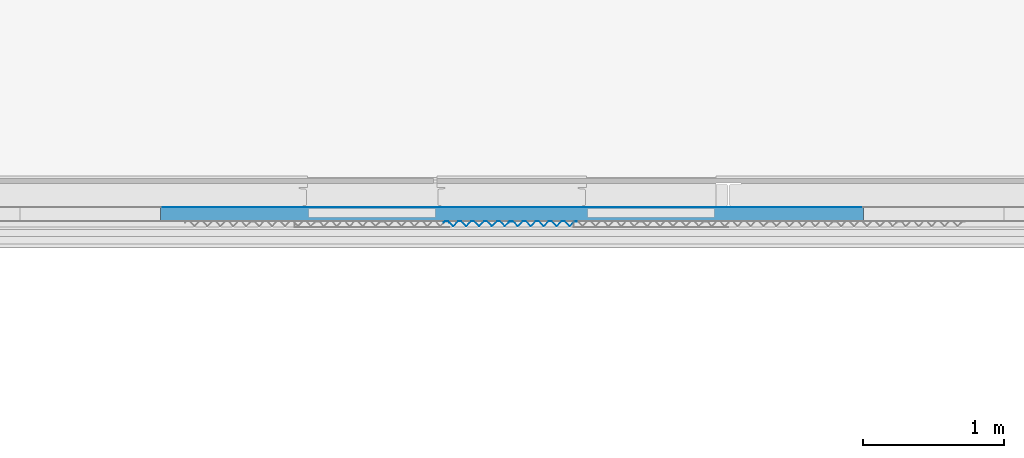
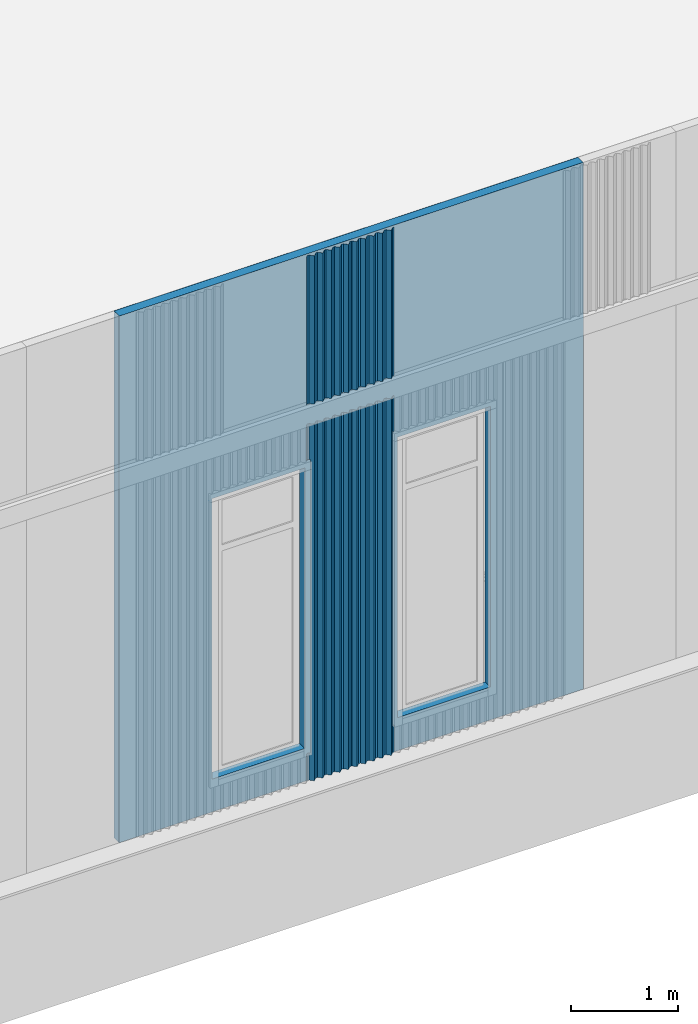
# One storey, part 91 of 338: 6 building element parts, 2 openings, 3 elements without a shape of their own.
"""IFC2X3 building model written with IfcOpenShell, lengths in millimetres."""

from ifc_helpers import new_model, entity, si_unit, converted_unit, derived_unit, money_unit, direction, frame, origin_with_axes, place, context, subcontext, project, spatial, faceted_brep, material, type_object, element, aggregate, save


model = new_model("IFC2X3")

# Units and contexts
model_context = context("Model", 3, precision=0.01, world=origin_with_axes(), true_north=direction((0.0, 1.0)))
plan_context = context("Plan", 3, precision=0.01, world=origin_with_axes(), true_north=direction((0.0, 1.0)))
body_context = subcontext(model_context, "Body", "Model", "MODEL_VIEW")
ifc_project = project(units=[si_unit("LENGTHUNIT", "METRE", prefix="MILLI"), si_unit("AREAUNIT", "SQUARE_METRE"), si_unit("VOLUMEUNIT", "CUBIC_METRE"), converted_unit("PLANEANGLEUNIT", "DEGREE", entity("IfcPlaneAngleMeasure", 0.0174532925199), si_unit("PLANEANGLEUNIT", "RADIAN"), dimensions=[0, 0, 0, 0, 0, 0, 0]), money_unit("EUR"), converted_unit("TIMEUNIT", "Year", entity("IfcTimeMeasure", 31556926.0), si_unit("TIMEUNIT", "SECOND"), dimensions=[0, 0, 1, 0, 0, 0, 0]), si_unit("MASSUNIT", "GRAM", prefix="KILO"), si_unit("THERMODYNAMICTEMPERATUREUNIT", "DEGREE_CELSIUS"), si_unit("LUMINOUSINTENSITYUNIT", "LUMEN"), si_unit("ENERGYUNIT", "JOULE", prefix="MEGA"), derived_unit("THERMALCONDUCTANCEUNIT", [(si_unit("POWERUNIT", "WATT"), 1), (si_unit("LENGTHUNIT", "METRE"), -1), (si_unit("THERMODYNAMICTEMPERATUREUNIT", "KELVIN"), -1)]), derived_unit("SPECIFICHEATCAPACITYUNIT", [(si_unit("ENERGYUNIT", "JOULE"), 1), (si_unit("MASSUNIT", "GRAM", prefix="KILO"), -1), (si_unit("THERMODYNAMICTEMPERATUREUNIT", "KELVIN"), -1)]), derived_unit("MASSDENSITYUNIT", [(si_unit("MASSUNIT", "GRAM", prefix="KILO"), 1), (si_unit("VOLUMEUNIT", "CUBIC_METRE"), -1)])], contexts=[model_context, plan_context])

# Site, building, storey
site_placement = place(None, origin_with_axes())
site = spatial("IfcSite", under=ifc_project, at=site_placement, Name="Fortuinstraat Woensdrecht", CompositionType="ELEMENT")
building_placement = place(site_placement, origin_with_axes())
building = spatial("IfcBuilding", under=site, at=building_placement, Name="IKC Fortuna", CompositionType="ELEMENT")
storey_placement = place(building_placement, origin_with_axes())
storey = spatial("IfcBuildingStorey", under=building, at=storey_placement, Name="00 begane grond", CompositionType="ELEMENT", Elevation=0.0)

# Wall, openings, building element parts
wall_type = type_object("IfcWallType", Name="21 sandwich 100", PredefinedType="NOTDEFINED")
wall_placement = place(storey_placement, frame((48093.4131798, 20996.2966283, 1000.0), z_axis=(0.0, 0.0, 1.0), x_axis=(-1.0, 0.0, 0.0)))
wall = element("IfcWall", 1, at=wall_placement, inside=storey, type_object=wall_type, Name="21_Wand_sandwichplaat")
opening_1_placement = place(wall_placement, frame((1509.97190187, 0.0, 400.0), z_axis=(0.0, 0.0, 1.0), x_axis=(1.0, 0.0, 0.0)))
element("IfcOpeningElement", 2, at=opening_1_placement, cuts=wall, Name="31_Raam_A.09", context=body_context, shape_type="Brep", body=[
    faceted_brep([(490.0, 10.0, 3170.0), (490.0, 10.0, -25.0), (490.0, 200.0, -25.0), (490.0, 200.0, 3170.0), (-510.0, 10.0, 3170.0), (-510.0, 10.0, -25.0), (-510.0, 200.0, -25.0), (-510.0, 200.0, 3170.0)], [[[0, 1, 2, 3]], [[0, 4, 5, 1]], [[1, 5, 6, 2]], [[3, 2, 6, 7]], [[4, 0, 3, 7]], [[5, 4, 7, 6]]]),
    faceted_brep([(490.0, 10.0, -25.0), (490.0, 10.0, 3170.0), (490.0, -100.0, 3170.0), (490.0, -100.0, -25.0), (-510.0, 10.0, -25.0), (-510.0, 10.0, 3170.0), (-510.0, -100.0, 3170.0), (-510.0, -100.0, -25.0)], [[[0, 1, 2, 3]], [[0, 4, 5, 1]], [[1, 5, 6, 2]], [[3, 2, 6, 7]], [[4, 0, 3, 7]], [[5, 4, 7, 6]]]),
])
opening_2_placement = place(wall_placement, frame((3494.965945, 0.0, 400.0), z_axis=(0.0, 0.0, 1.0), x_axis=(1.0, 0.0, 0.0)))
element("IfcOpeningElement", 3, at=opening_2_placement, cuts=wall, Name="31_Raam_A.09", context=body_context, shape_type="Brep", body=[
    faceted_brep([(505.0, 10.0, 3170.0), (505.0, 10.0, -25.0), (505.0, 200.0, -25.0), (505.0, 200.0, 3170.0), (-495.0, 10.0, 3170.0), (-495.0, 10.0, -25.0), (-495.0, 200.0, -25.0), (-495.0, 200.0, 3170.0)], [[[0, 1, 2, 3]], [[0, 4, 5, 1]], [[1, 5, 6, 2]], [[3, 2, 6, 7]], [[4, 0, 3, 7]], [[5, 4, 7, 6]]]),
    faceted_brep([(505.0, 10.0, -25.0), (505.0, 10.0, 3170.0), (505.0, -100.0, 3170.0), (505.0, -100.0, -25.0), (-495.0, 10.0, -25.0), (-495.0, 10.0, 3170.0), (-495.0, -100.0, 3170.0), (-495.0, -100.0, -25.0)], [[[0, 1, 2, 3]], [[0, 4, 5, 1]], [[1, 5, 6, 2]], [[3, 2, 6, 7]], [[4, 0, 3, 7]], [[5, 4, 7, 6]]]),
])
ifc_material_1 = material(Name="Isolatie - Kunststof hard")
building_element_part_1_placement = place(wall_placement, origin_with_axes())
building_element_part_1 = element("IfcBuildingElementPart", 4, at=building_element_part_1_placement, material=ifc_material_1, Name="Isolatie - Kunststof hard", context=body_context, shape_type="Brep", body=[
    faceted_brep([(0.0, 99.0, 6000.0), (5000.0, 99.0, 6000.0), (5000.0, 99.0, 0.0), (0.0, 99.0, 0.0), (999.971901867, 99.0, 3570.0), (999.971901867, 99.0, 375.0), (1999.97190187, 99.0, 375.0), (1999.97190187, 99.0, 3570.0), (3999.965945, 99.0, 375.0), (3999.965945, 99.0, 3570.0), (2999.965945, 99.0, 3570.0), (2999.965945, 99.0, 375.0), (0.0, 1.0, 6000.0), (5000.0, 1.0, 6000.0), (5000.0, 1.0, 0.0), (0.0, 1.0, 0.0), (999.971901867, 1.0, 3570.0), (999.971901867, 1.0, 375.0), (1999.97190187, 1.0, 375.0), (1999.97190187, 1.0, 3570.0), (3999.965945, 1.0, 375.0), (3999.965945, 1.0, 3570.0), (2999.965945, 1.0, 3570.0), (2999.965945, 1.0, 375.0), (859.986122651, 1.0, 4987.38689376), (933.886122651, 1.0, 4987.38689376), (944.386122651, 1.0, 4990.20075849), (952.072656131, 1.0, 4997.8883799), (954.886122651, 1.0, 5008.38986604), (954.886122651, 1.0, 5380.04044726), (965.086122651, 1.0, 5380.04044726), (965.086122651, 1.0, 5008.38986604), (967.899589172, 1.0, 4997.8883799), (975.586122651, 1.0, 4990.20075849), (986.086122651, 1.0, 4987.38689376), (1059.98612265, 1.0, 4987.38689376), (1059.98612265, 1.0, 4971.38462917), (859.986122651, 1.0, 4971.38462917), (859.986122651, 7.60468625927, 4987.4980203), (933.886122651, 7.60468625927, 4987.4980203), (944.386122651, 7.55735523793, 4990.31108866), (952.072656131, 7.42804448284, 4997.99653437), (954.886122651, 7.25140270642, 5008.49504844), (859.986122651, 7.8738546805, 4971.50028457), (1059.98612265, 7.8738546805, 4971.50028457), (1059.98612265, 7.60468625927, 4987.4980203), (986.086122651, 7.60468625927, 4987.4980203), (975.586122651, 7.55735523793, 4990.31108866), (967.899589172, 7.42804448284, 4997.99653437), (965.086122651, 7.25140270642, 5008.49504844)], [[[0, 1, 2, 3], [4, 5, 6, 7], [8, 9, 10, 11]], [[12, 13, 1, 0]], [[1, 13, 14, 2]], [[3, 2, 14, 15]], [[15, 12, 0, 3]], [[4, 16, 17, 5]], [[17, 18, 6, 5]], [[18, 19, 7, 6]], [[7, 19, 16, 4]], [[9, 8, 20, 21]], [[22, 10, 9, 21]], [[23, 11, 10, 22]], [[8, 11, 23, 20]], [[15, 14, 13, 12], [24, 25, 26, 27, 28, 29, 30, 31, 32, 33, 34, 35, 36, 37], [19, 18, 17, 16], [23, 22, 21, 20]], [[25, 24, 38, 39]], [[26, 25, 39, 40]], [[27, 26, 40, 41]], [[28, 27, 41, 42]], [[29, 28, 42]], [[42, 41, 40, 39, 38, 43, 44, 45, 46, 47, 48, 49, 30, 29]], [[31, 30, 49]], [[32, 31, 49, 48]], [[33, 32, 48, 47]], [[34, 33, 47, 46]], [[35, 34, 46, 45]], [[36, 35, 45, 44]], [[37, 36, 44, 43]], [[24, 37, 43, 38]]]),
])
ifc_material_2 = material(Name="Metaal - Aluminium")
building_element_part_2_placement = place(wall_placement, origin_with_axes())
building_element_part_2 = element("IfcBuildingElementPart", 5, at=building_element_part_2_placement, material=ifc_material_2, Name="Metaal - Aluminium", context=body_context, shape_type="Brep", body=[
    faceted_brep([(5000.0, 0.999999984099, 18.9261694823), (5000.0, 0.996632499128, 0.0), (0.0, 0.996632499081, 0.0), (0.0, 0.999999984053, 18.9261694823), (0.0, 1.0, 6000.0), (5000.0, 1.0, 6000.0), (975.586122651, 1.0, 4990.20075849), (967.899589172, 1.0, 4997.8883799), (965.086122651, 1.0, 5008.38986604), (965.086122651, 1.0, 5380.04044726), (954.886122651, 1.0, 5380.04044726), (954.886122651, 1.0, 5008.38986604), (952.072656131, 1.0, 4997.8883799), (944.386122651, 1.0, 4990.20075849), (933.886122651, 1.0, 4987.38689376), (859.986122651, 1.0, 4987.38689376), (859.986122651, 1.0, 4971.38462917), (1059.98612265, 1.0, 4971.38462917), (1059.98612265, 1.0, 4987.38689376), (986.086122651, 1.0, 4987.38689376), (1999.97190187, 0.999999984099, 3570.0), (999.971901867, 0.999999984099, 3570.0), (999.971901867, 0.999999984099, 375.0), (1999.97190187, 0.999999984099, 375.0), (3999.965945, 0.999999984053, 375.0), (3999.965945, 0.999999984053, 3570.0), (2999.965945, 0.999999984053, 3570.0), (2999.965945, 0.999999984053, 375.0), (0.0, 0.0, 6000.0), (0.0, 0.0, 18.9263474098), (5000.0, 0.0, 6000.0), (5000.0, 0.0, 18.9263474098), (967.899589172, 0.0, 4997.87155449), (975.586122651, 0.0, 4990.18393308), (965.086122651, 0.0, 5008.37304063), (965.086122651, 0.0, 5434.43333546), (965.086122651, 0.0847934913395, 5434.43476214), (966.436673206, 0.0, 5439.47437214), (953.535572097, 0.0, 5439.47437214), (954.886122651, 0.0847934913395, 5434.43476214), (954.886122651, 0.0, 5434.43333546), (954.886122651, 0.0, 5008.37304063), (952.072656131, 0.0, 4997.87155449), (944.386122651, 0.0, 4990.18393308), (933.886122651, 0.0, 4987.37006835), (859.986122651, 0.0, 4987.37006835), (859.986122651, 0.0, 4971.36780376), (1059.98612265, 0.0, 4971.36780376), (1059.98612265, 0.0, 4987.37006835), (986.086122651, 0.0, 4987.37006835), (999.971901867, 0.0, 3570.0), (1999.97190187, 0.0, 3570.0), (999.971901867, 0.0, 375.0), (1999.97190187, 0.0, 375.0), (3999.965945, 0.0, 375.0), (3999.965945, 0.0, 3570.0), (2999.965945, 0.0, 3570.0), (2999.965945, 0.0, 375.0)], [[[0, 1, 2, 3, 4, 5], [6, 7, 8, 9, 10, 11, 12, 13, 14, 15, 16, 17, 18, 19], [20, 21, 22, 23], [24, 25, 26, 27]], [[1, 0, 3, 2]], [[28, 4, 3, 29]], [[4, 28, 30, 5]], [[5, 30, 31, 0]], [[32, 7, 6, 33]], [[34, 8, 7, 32]], [[9, 8, 34, 35, 36]], [[36, 37, 38, 39, 10, 9]], [[10, 39, 40, 41, 11]], [[42, 12, 11, 41]], [[43, 13, 12, 42]], [[44, 14, 13, 43]], [[45, 15, 14, 44]], [[46, 16, 15, 45]], [[47, 17, 16, 46]], [[48, 18, 17, 47]], [[49, 19, 18, 48]], [[33, 6, 19, 49]], [[50, 21, 20, 51]], [[52, 22, 21, 50]], [[53, 23, 22, 52]], [[51, 20, 23, 53]], [[54, 55, 25, 24]], [[55, 56, 26, 25]], [[56, 57, 27, 26]], [[57, 54, 24, 27]], [[0, 31, 29, 3]], [[30, 28, 29, 31], [37, 35, 34, 32, 33, 49, 48, 47, 46, 45, 44, 43, 42, 41, 40, 38], [52, 50, 51, 53], [54, 57, 56, 55]], [[36, 35, 37]], [[39, 38, 40]]]),
])
aggregate(wall, [building_element_part_1, building_element_part_2])

# Proxy, building element parts
building_element_proxy_type = type_object("IfcBuildingElementProxyType", Name="21 Sandwich custom pyramid 946 x 37", PredefinedType="NOTDEFINED")
proxy_1_placement = place(storey_placement, frame((46054.9270571, 20896.2966283, 1000.0), z_axis=(0.0, 0.0, 1.0), x_axis=(-1.0, 0.0, 0.0)))
proxy_1 = element("IfcBuildingElementProxy", 6, at=proxy_1_placement, inside=storey, type_object=building_element_proxy_type, Name="41_Generieke bekleding & afwerking buiten_sandwich custom pyramid")
building_element_part_3_placement = place(proxy_1_placement, origin_with_axes())
building_element_part_3 = element("IfcBuildingElementPart", 7, at=building_element_part_3_placement, material=ifc_material_2, Name="Metaal - Aluminium", context=body_context, shape_type="Brep", body=[
    faceted_brep([(0.0, 2.39999686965, 3655.0), (0.0, 1.20000548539, 3655.0), (0.0, 1.20000548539, 4060.85690076), (0.0, 2.39999686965, 4060.85690076), (17.2342926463, 1.20000548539, 3655.0), (16.7470988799, 2.39999686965, 3655.0), (21.1696330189, 6.69967878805, 3655.0), (21.1696330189, 5.02603071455, 3655.0), (17.2342926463, 1.20000548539, 4060.85690076), (16.7470988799, 2.39999686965, 4060.85690076), (52.0000026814, 35.0000001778, 4060.85690076), (87.9999980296, 0.0, 4060.85690076), (108.000000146, 0.0, 4060.85690076), (143.999995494, 35.0000001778, 4060.85690076), (180.000004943, 0.0, 4060.85690076), (199.999992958, 0.0, 4060.85690076), (236.000002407, 35.0000001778, 4060.85690076), (271.999997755, 0.0, 4060.85690076), (291.999999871, 0.0, 4060.85690076), (327.99999522, 35.0000001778, 4060.85690076), (364.000004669, 0.0, 4060.85690076), (384.000006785, 0.0, 4060.85690076), (420.000002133, 35.0000001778, 4060.85690076), (455.999997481, 0.0, 4060.85690076), (477.721464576, 0.0, 4060.85690076), (486.309372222, 8.34935896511, 4060.85690076), (485.472879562, 9.20975302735, 4060.85690076), (477.23428491, 1.20000548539, 4060.85690076), (460.000006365, 1.20000548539, 4060.85690076), (456.487191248, 1.20000548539, 4060.85690076), (420.000002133, 36.6736482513, 4060.85690076), (383.512813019, 1.20000548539, 4060.85690076), (364.487184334, 1.20000548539, 4060.85690076), (327.99999522, 36.6736482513, 4060.85690076), (291.512820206, 1.20000548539, 4060.85690076), (272.487191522, 1.20000548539, 4060.85690076), (236.000002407, 36.6736482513, 4060.85690076), (199.512813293, 1.20000548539, 4060.85690076), (180.487184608, 1.20000548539, 4060.85690076), (143.999995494, 36.6736482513, 4060.85690076), (107.51282048, 1.20000548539, 4060.85690076), (88.487191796, 1.20000548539, 4060.85690076), (52.0000026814, 36.6736482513, 4060.85690076), (52.0000026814, 36.6736482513, 0.0), (16.7470988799, 2.39999686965, 0.0), (16.7470988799, 2.39999686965, 310.6), (21.1696330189, 6.69967878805, 310.6), (21.1696330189, 5.02603071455, 310.6), (17.2342926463, 1.20000548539, 310.6), (17.2342926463, 1.20000548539, 0.0), (52.0000026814, 35.0000001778, 0.0), (87.9999980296, 0.0, 0.0), (108.000000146, 0.0, 0.0), (143.999995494, 35.0000001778, 0.0), (180.000004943, 0.0, 0.0), (199.999992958, 0.0, 0.0), (236.000002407, 35.0000001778, 0.0), (271.999997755, 0.0, 0.0), (291.999999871, 0.0, 0.0), (327.99999522, 35.0000001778, 0.0), (364.000004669, 0.0, 0.0), (384.000006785, 0.0, 0.0), (420.000002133, 35.0000001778, 0.0), (455.999997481, 0.0, 0.0), (477.721464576, 0.0, 0.0), (486.309372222, 8.34935896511, 0.0), (485.472879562, 9.20975302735, 0.0), (477.23428491, 1.20000548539, 0.0), (460.000006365, 1.20000548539, 0.0), (456.487191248, 1.20000548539, 0.0), (420.000002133, 36.6736482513, 0.0), (383.512813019, 1.20000548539, 0.0), (364.487184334, 1.20000548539, 0.0), (327.99999522, 36.6736482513, 0.0), (291.512820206, 1.20000548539, 0.0), (272.487191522, 1.20000548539, 0.0), (236.000002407, 36.6736482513, 0.0), (199.512813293, 1.20000548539, 0.0), (180.487184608, 1.20000548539, 0.0), (143.999995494, 36.6736482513, 0.0), (107.51282048, 1.20000548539, 0.0), (88.487191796, 1.20000548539, 0.0), (0.0, 1.20000548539, 0.0), (0.0, 2.39999686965, 0.0), (0.0, 2.39999686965, 310.6), (0.0, 1.20000548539, 310.6)], [[[0, 1, 2, 3]], [[4, 1, 0, 5, 6, 7]], [[1, 4, 8, 2]], [[9, 3, 2, 8, 10, 11, 12, 13, 14, 15, 16, 17, 18, 19, 20, 21, 22, 23, 24, 25, 26, 27, 28, 29, 30, 31, 32, 33, 34, 35, 36, 37, 38, 39, 40, 41, 42]], [[5, 0, 3, 9]], [[6, 5, 9, 42, 43, 44, 45, 46]], [[47, 7, 6, 46]], [[47, 48, 49, 50, 10, 8, 4, 7]], [[10, 50, 51, 11]], [[11, 51, 52, 12]], [[12, 52, 53, 13]], [[13, 53, 54, 14]], [[14, 54, 55, 15]], [[15, 55, 56, 16]], [[16, 56, 57, 17]], [[17, 57, 58, 18]], [[18, 58, 59, 19]], [[19, 59, 60, 20]], [[20, 60, 61, 21]], [[21, 61, 62, 22]], [[22, 62, 63, 23]], [[23, 63, 64, 24]], [[24, 64, 65, 25]], [[25, 65, 66, 26]], [[26, 66, 67, 27]], [[27, 67, 68, 28]], [[28, 68, 69, 29]], [[29, 69, 70, 30]], [[30, 70, 71, 31]], [[31, 71, 72, 32]], [[32, 72, 73, 33]], [[33, 73, 74, 34]], [[34, 74, 75, 35]], [[35, 75, 76, 36]], [[36, 76, 77, 37]], [[37, 77, 78, 38]], [[38, 78, 79, 39]], [[39, 79, 80, 40]], [[40, 80, 81, 41]], [[41, 81, 43, 42]], [[82, 83, 44, 43, 81, 80, 79, 78, 77, 76, 75, 74, 73, 72, 71, 70, 69, 68, 67, 66, 65, 64, 63, 62, 61, 60, 59, 58, 57, 56, 55, 54, 53, 52, 51, 50, 49]], [[84, 45, 44, 83]], [[84, 85, 48, 47, 46, 45]], [[48, 85, 82, 49]], [[85, 84, 83, 82]]]),
])
building_element_part_4_placement = place(proxy_1_placement, origin_with_axes())
building_element_part_4 = element("IfcBuildingElementPart", 8, at=building_element_part_4_placement, material=ifc_material_2, Name="Metaal - Aluminium", context=body_context, shape_type="Brep", body=[
    faceted_brep([(916.0, 0.0, 310.623682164), (906.169673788, 9.55726159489, 310.623682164), (906.169673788, 9.55726159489, 3655.00076674), (916.0, 0.0, 3655.00076674), (916.0, 0.0, 4060.85690076), (880.0, 35.0, 4060.85690076), (880.0, 35.0, 0.0), (916.0, 0.0, 0.0), (937.721470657, 0.0, 310.623682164), (946.309378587, 8.34935493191, 310.623682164), (945.472884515, 9.20974883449, 310.623682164), (937.234285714, 1.2, 310.623682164), (916.487184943, 1.2, 310.623682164), (906.169673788, 11.230913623, 310.623682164), (906.169673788, 11.230913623, 3655.00076674), (916.487184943, 1.2, 3655.00076674), (937.234285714, 1.2, 3655.00076674), (945.472884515, 9.20974883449, 3655.00076674), (946.309378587, 8.34935493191, 3655.00076674), (937.721470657, 0.0, 3655.00076674), (937.721470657, 0.0, 4060.85690076), (460.0, 2.4, 4060.85690076), (460.0, 1.2, 4060.85690076), (477.234285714, 1.2, 4060.85690076), (485.472879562, 9.20975302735, 4060.85690076), (512.0, 35.0, 4060.85690076), (548.0, 0.0, 4060.85690076), (568.0, 0.0, 4060.85690076), (604.0, 35.0, 4060.85690076), (640.0, 0.0, 4060.85690076), (660.0, 0.0, 4060.85690076), (696.0, 35.0, 4060.85690076), (732.0, 0.0, 4060.85690076), (752.0, 0.0, 4060.85690076), (788.0, 35.0, 4060.85690076), (824.0, 0.0, 4060.85690076), (844.0, 0.0, 4060.85690076), (946.309378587, 8.34935493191, 4060.85690076), (945.472884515, 9.20974883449, 4060.85690076), (937.234285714, 1.2, 4060.85690076), (916.487184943, 1.2, 4060.85690076), (880.0, 36.6736520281, 4060.85690076), (843.512815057, 1.2, 4060.85690076), (824.487184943, 1.2, 4060.85690076), (788.0, 36.6736520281, 4060.85690076), (751.512815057, 1.2, 4060.85690076), (732.487184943, 1.2, 4060.85690076), (696.0, 36.6736520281, 4060.85690076), (659.512815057, 1.2, 4060.85690076), (640.487184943, 1.2, 4060.85690076), (604.0, 36.6736520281, 4060.85690076), (567.512815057, 1.2, 4060.85690076), (548.487184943, 1.2, 4060.85690076), (512.0, 36.6736520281, 4060.85690076), (476.747100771, 2.4, 4060.85690076), (844.0, 0.0, 0.0), (477.234285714, 1.2, 0.0), (460.0, 1.2, 0.0), (460.0, 2.4, 0.0), (476.747100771, 2.4, 0.0), (512.0, 36.6736520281, 0.0), (548.487184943, 1.2, 0.0), (567.512815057, 1.2, 0.0), (604.0, 36.6736520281, 0.0), (640.487184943, 1.2, 0.0), (659.512815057, 1.2, 0.0), (696.0, 36.6736520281, 0.0), (732.487184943, 1.2, 0.0), (751.512815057, 1.2, 0.0), (788.0, 36.6736520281, 0.0), (824.487184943, 1.2, 0.0), (843.512815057, 1.2, 0.0), (880.0, 36.6736520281, 0.0), (916.487184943, 1.2, 0.0), (937.234285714, 1.2, 0.0), (945.472884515, 9.20974883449, 0.0), (946.309378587, 8.34935493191, 0.0), (937.721470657, 0.0, 0.0), (824.0, 0.0, 0.0), (788.0, 35.0, 0.0), (752.0, 0.0, 0.0), (732.0, 0.0, 0.0), (696.0, 35.0, 0.0), (660.0, 0.0, 0.0), (640.0, 0.0, 0.0), (604.0, 35.0, 0.0), (568.0, 0.0, 0.0), (548.0, 0.0, 0.0), (512.0, 35.0, 0.0), (485.472879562, 9.20975302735, 0.0)], [[[0, 1, 2, 3, 4, 5, 6, 7]], [[1, 0, 8, 9, 10, 11, 12, 13]], [[2, 1, 13, 14]], [[3, 2, 14, 15, 16, 17, 18, 19]], [[3, 19, 20, 4]], [[21, 22, 23, 24, 25, 26, 27, 28, 29, 30, 31, 32, 33, 34, 35, 36, 5, 4, 20, 37, 38, 39, 40, 41, 42, 43, 44, 45, 46, 47, 48, 49, 50, 51, 52, 53, 54]], [[36, 55, 6, 5]], [[56, 57, 58, 59, 60, 61, 62, 63, 64, 65, 66, 67, 68, 69, 70, 71, 72, 73, 74, 75, 76, 77, 7, 6, 55, 78, 79, 80, 81, 82, 83, 84, 85, 86, 87, 88, 89]], [[8, 0, 7, 77]], [[9, 8, 77, 76]], [[10, 9, 76, 75]], [[11, 10, 75, 74]], [[12, 11, 74, 73]], [[13, 12, 73, 72, 41, 40, 15, 14]], [[16, 15, 40, 39]], [[17, 16, 39, 38]], [[18, 17, 38, 37]], [[19, 18, 37, 20]], [[21, 58, 57, 22]], [[22, 57, 56, 23]], [[23, 56, 89, 24]], [[24, 89, 88, 25]], [[25, 88, 87, 26]], [[26, 87, 86, 27]], [[27, 86, 85, 28]], [[28, 85, 84, 29]], [[29, 84, 83, 30]], [[30, 83, 82, 31]], [[31, 82, 81, 32]], [[32, 81, 80, 33]], [[33, 80, 79, 34]], [[34, 79, 78, 35]], [[35, 78, 55, 36]], [[41, 72, 71, 42]], [[42, 71, 70, 43]], [[43, 70, 69, 44]], [[44, 69, 68, 45]], [[45, 68, 67, 46]], [[46, 67, 66, 47]], [[47, 66, 65, 48]], [[48, 65, 64, 49]], [[49, 64, 63, 50]], [[50, 63, 62, 51]], [[51, 62, 61, 52]], [[52, 61, 60, 53]], [[53, 60, 59, 54]], [[54, 59, 58, 21]]]),
])
aggregate(proxy_1, [building_element_part_3, building_element_part_4])

proxy_2_placement = place(storey_placement, frame((46054.9270571, 20896.2966283, 5289.99999237), z_axis=(0.0, 0.0, 1.0), x_axis=(-1.0, 0.0, 0.0)))
proxy_2 = element("IfcBuildingElementProxy", 9, at=proxy_2_placement, inside=storey, type_object=building_element_proxy_type, Name="41_Generieke bekleding & afwerking buiten_sandwich custom pyramid")
building_element_part_5_placement = place(proxy_2_placement, origin_with_axes())
building_element_part_5 = element("IfcBuildingElementPart", 10, at=building_element_part_5_placement, material=ifc_material_2, Name="Metaal - Aluminium", context=body_context, shape_type="Brep", body=[
    faceted_brep([(0.0, 2.39999686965, 0.0), (0.0, 1.20000548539, 0.0), (0.0, 1.20000548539, 1690.00000566), (0.0, 2.39999686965, 1690.00000566), (16.7470988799, 2.39999686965, 0.0), (52.0000026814, 36.6736482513, 0.0), (88.487191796, 1.20000548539, 0.0), (107.51282048, 1.20000548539, 0.0), (143.999995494, 36.6736482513, 0.0), (180.487184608, 1.20000548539, 0.0), (199.512813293, 1.20000548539, 0.0), (236.000002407, 36.6736482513, 0.0), (272.487191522, 1.20000548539, 0.0), (291.512820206, 1.20000548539, 0.0), (327.99999522, 36.6736482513, 0.0), (364.487184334, 1.20000548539, 0.0), (383.512813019, 1.20000548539, 0.0), (420.000002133, 36.6736482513, 0.0), (456.487191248, 1.20000548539, 0.0), (460.000006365, 1.20000548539, 0.0), (477.23428491, 1.20000548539, 0.0), (485.472879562, 9.20975302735, 0.0), (486.309372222, 8.34935896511, 0.0), (477.721464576, 0.0, 0.0), (455.999997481, 0.0, 0.0), (420.000002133, 35.0000001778, 0.0), (384.000006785, 0.0, 0.0), (364.000004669, 0.0, 0.0), (327.99999522, 35.0000001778, 0.0), (291.999999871, 0.0, 0.0), (271.999997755, 0.0, 0.0), (236.000002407, 35.0000001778, 0.0), (199.999992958, 0.0, 0.0), (180.000004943, 0.0, 0.0), (143.999995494, 35.0000001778, 0.0), (108.000000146, 0.0, 0.0), (87.9999980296, 0.0, 0.0), (52.0000026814, 35.0000001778, 0.0), (17.2342926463, 1.20000548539, 0.0), (17.2342926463, 1.20000548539, 1690.00000566), (52.0000026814, 35.0000001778, 1690.00000566), (87.9999980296, 0.0, 1690.00000566), (108.000000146, 0.0, 1690.00000566), (143.999995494, 35.0000001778, 1690.00000566), (180.000004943, 0.0, 1690.00000566), (199.999992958, 0.0, 1690.00000566), (236.000002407, 35.0000001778, 1690.00000566), (271.999997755, 0.0, 1690.00000566), (291.999999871, 0.0, 1690.00000566), (327.99999522, 35.0000001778, 1690.00000566), (364.000004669, 0.0, 1690.00000566), (384.000006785, 0.0, 1690.00000566), (420.000002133, 35.0000001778, 1690.00000566), (455.999997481, 0.0, 1690.00000566), (477.721464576, 0.0, 1690.00000566), (486.309372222, 8.34935896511, 1690.00000566), (485.472879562, 9.20975302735, 1690.00000566), (477.23428491, 1.20000548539, 1690.00000566), (460.000006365, 1.20000548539, 1690.00000566), (456.487191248, 1.20000548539, 1690.00000566), (420.000002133, 36.6736482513, 1690.00000566), (383.512813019, 1.20000548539, 1690.00000566), (364.487184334, 1.20000548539, 1690.00000566), (327.99999522, 36.6736482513, 1690.00000566), (291.512820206, 1.20000548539, 1690.00000566), (272.487191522, 1.20000548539, 1690.00000566), (236.000002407, 36.6736482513, 1690.00000566), (199.512813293, 1.20000548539, 1690.00000566), (180.487184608, 1.20000548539, 1690.00000566), (143.999995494, 36.6736482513, 1690.00000566), (107.51282048, 1.20000548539, 1690.00000566), (88.487191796, 1.20000548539, 1690.00000566), (52.0000026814, 36.6736482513, 1690.00000566), (16.7470988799, 2.39999686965, 1690.00000566)], [[[0, 1, 2, 3]], [[0, 4, 5, 6, 7, 8, 9, 10, 11, 12, 13, 14, 15, 16, 17, 18, 19, 20, 21, 22, 23, 24, 25, 26, 27, 28, 29, 30, 31, 32, 33, 34, 35, 36, 37, 38, 1]], [[1, 38, 39, 2]], [[3, 2, 39, 40, 41, 42, 43, 44, 45, 46, 47, 48, 49, 50, 51, 52, 53, 54, 55, 56, 57, 58, 59, 60, 61, 62, 63, 64, 65, 66, 67, 68, 69, 70, 71, 72, 73]], [[4, 0, 3, 73]], [[5, 4, 73, 72]], [[6, 5, 72, 71]], [[7, 6, 71, 70]], [[8, 7, 70, 69]], [[9, 8, 69, 68]], [[10, 9, 68, 67]], [[11, 10, 67, 66]], [[12, 11, 66, 65]], [[13, 12, 65, 64]], [[14, 13, 64, 63]], [[15, 14, 63, 62]], [[16, 15, 62, 61]], [[17, 16, 61, 60]], [[18, 17, 60, 59]], [[19, 18, 59, 58]], [[20, 19, 58, 57]], [[21, 20, 57, 56]], [[22, 21, 56, 55]], [[23, 22, 55, 54]], [[24, 23, 54, 53]], [[25, 24, 53, 52]], [[26, 25, 52, 51]], [[27, 26, 51, 50]], [[28, 27, 50, 49]], [[29, 28, 49, 48]], [[30, 29, 48, 47]], [[31, 30, 47, 46]], [[32, 31, 46, 45]], [[33, 32, 45, 44]], [[34, 33, 44, 43]], [[35, 34, 43, 42]], [[36, 35, 42, 41]], [[37, 36, 41, 40]], [[38, 37, 40, 39]]]),
])
building_element_part_6_placement = place(proxy_2_placement, origin_with_axes())
building_element_part_6 = element("IfcBuildingElementPart", 11, at=building_element_part_6_placement, material=ifc_material_2, Name="Metaal - Aluminium", context=body_context, shape_type="Brep", body=[
    faceted_brep([(460.0, 1.2, 0.0), (477.234285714, 1.2, 0.0), (477.234285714, 1.2, 1690.00000566), (460.0, 1.2, 1690.00000566), (460.0, 2.4, 0.0), (476.747100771, 2.4, 0.0), (512.0, 36.6736520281, 0.0), (548.487184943, 1.2, 0.0), (567.512815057, 1.2, 0.0), (604.0, 36.6736520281, 0.0), (640.487184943, 1.2, 0.0), (659.512815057, 1.2, 0.0), (696.0, 36.6736520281, 0.0), (732.487184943, 1.2, 0.0), (751.512815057, 1.2, 0.0), (788.0, 36.6736520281, 0.0), (824.487184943, 1.2, 0.0), (843.512815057, 1.2, 0.0), (880.0, 36.6736520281, 0.0), (916.487184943, 1.2, 0.0), (937.234285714, 1.2, 0.0), (945.472884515, 9.20974883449, 0.0), (946.309378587, 8.34935493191, 0.0), (937.721470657, 0.0, 0.0), (916.0, 0.0, 0.0), (880.0, 35.0, 0.0), (844.0, 0.0, 0.0), (824.0, 0.0, 0.0), (788.0, 35.0, 0.0), (752.0, 0.0, 0.0), (732.0, 0.0, 0.0), (696.0, 35.0, 0.0), (660.0, 0.0, 0.0), (640.0, 0.0, 0.0), (604.0, 35.0, 0.0), (568.0, 0.0, 0.0), (548.0, 0.0, 0.0), (512.0, 35.0, 0.0), (485.472879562, 9.20975302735, 0.0), (485.472879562, 9.20975302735, 1690.00000566), (512.0, 35.0, 1690.00000566), (548.0, 0.0, 1690.00000566), (568.0, 0.0, 1690.00000566), (604.0, 35.0, 1690.00000566), (640.0, 0.0, 1690.00000566), (660.0, 0.0, 1690.00000566), (696.0, 35.0, 1690.00000566), (732.0, 0.0, 1690.00000566), (752.0, 0.0, 1690.00000566), (788.0, 35.0, 1690.00000566), (824.0, 0.0, 1690.00000566), (844.0, 0.0, 1690.00000566), (880.0, 35.0, 1690.00000566), (916.0, 0.0, 1690.00000566), (937.721470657, 0.0, 1690.00000566), (946.309378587, 8.34935493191, 1690.00000566), (945.472884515, 9.20974883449, 1690.00000566), (937.234285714, 1.2, 1690.00000566), (916.487184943, 1.2, 1690.00000566), (880.0, 36.6736520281, 1690.00000566), (843.512815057, 1.2, 1690.00000566), (824.487184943, 1.2, 1690.00000566), (788.0, 36.6736520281, 1690.00000566), (751.512815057, 1.2, 1690.00000566), (732.487184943, 1.2, 1690.00000566), (696.0, 36.6736520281, 1690.00000566), (659.512815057, 1.2, 1690.00000566), (640.487184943, 1.2, 1690.00000566), (604.0, 36.6736520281, 1690.00000566), (567.512815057, 1.2, 1690.00000566), (548.487184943, 1.2, 1690.00000566), (512.0, 36.6736520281, 1690.00000566), (476.747100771, 2.4, 1690.00000566), (460.0, 2.4, 1690.00000566)], [[[0, 1, 2, 3]], [[0, 4, 5, 6, 7, 8, 9, 10, 11, 12, 13, 14, 15, 16, 17, 18, 19, 20, 21, 22, 23, 24, 25, 26, 27, 28, 29, 30, 31, 32, 33, 34, 35, 36, 37, 38, 1]], [[1, 38, 39, 2]], [[3, 2, 39, 40, 41, 42, 43, 44, 45, 46, 47, 48, 49, 50, 51, 52, 53, 54, 55, 56, 57, 58, 59, 60, 61, 62, 63, 64, 65, 66, 67, 68, 69, 70, 71, 72, 73]], [[4, 0, 3, 73]], [[5, 4, 73, 72]], [[6, 5, 72, 71]], [[7, 6, 71, 70]], [[8, 7, 70, 69]], [[9, 8, 69, 68]], [[10, 9, 68, 67]], [[11, 10, 67, 66]], [[12, 11, 66, 65]], [[13, 12, 65, 64]], [[14, 13, 64, 63]], [[15, 14, 63, 62]], [[16, 15, 62, 61]], [[17, 16, 61, 60]], [[18, 17, 60, 59]], [[19, 18, 59, 58]], [[20, 19, 58, 57]], [[21, 20, 57, 56]], [[22, 21, 56, 55]], [[23, 22, 55, 54]], [[24, 23, 54, 53]], [[25, 24, 53, 52]], [[26, 25, 52, 51]], [[27, 26, 51, 50]], [[28, 27, 50, 49]], [[29, 28, 49, 48]], [[30, 29, 48, 47]], [[31, 30, 47, 46]], [[32, 31, 46, 45]], [[33, 32, 45, 44]], [[34, 33, 44, 43]], [[35, 34, 43, 42]], [[36, 35, 42, 41]], [[37, 36, 41, 40]], [[38, 37, 40, 39]]]),
])
aggregate(proxy_2, [building_element_part_5, building_element_part_6])

save(model, "model.ifc")
